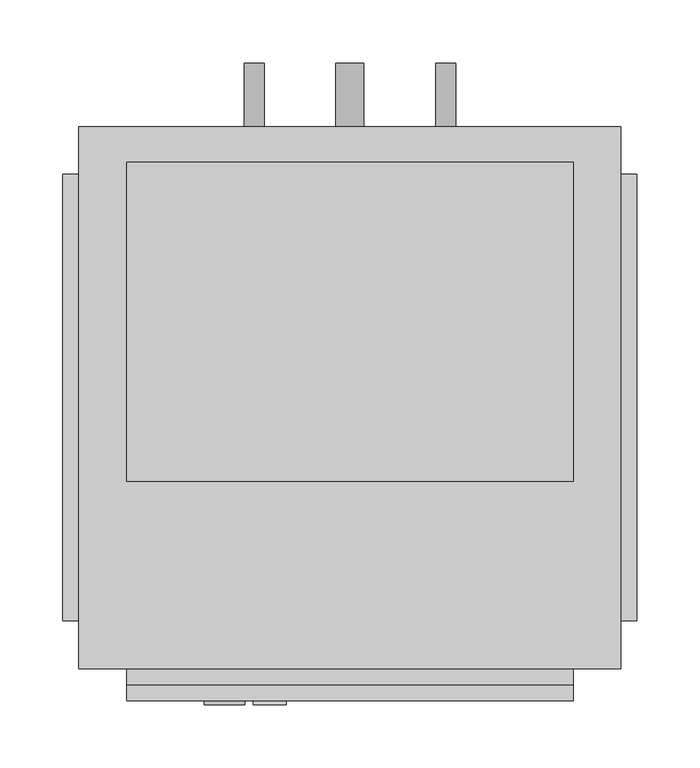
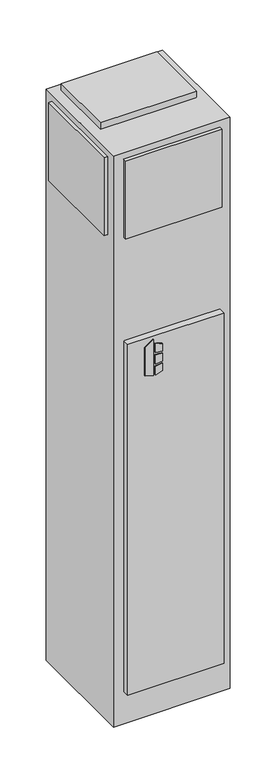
"""IFC4 building model written with IfcOpenShell, lengths in millimetres: proxy geometry, Concealed_Universal_Modular_Fan_Coil_Unit_-_MUY_-_IEC_-_2-Pipe_Cool-EHeat_-_NoRisers_2022 : Size 03 - 277v/60Hz/1Ph - 4 Row 3.0kW."""

from ifc_helpers import new_model, si_unit, point, frame, frame_2d, origin, origin_with_axes, place, context, project, spatial, polyline, circle_curve, trimmed, segment, composite_curve, outline, extrude, source, transform, mapped, element, save


def mechanical_equipment_b2c7ec3c(model_context):
    return source(origin(), model_context, "Body", "SweptSolid", [
        extrude(outline(polyline([(1356.1480703, 252.4868862), (1346.2, 284.6602728), (1488.3709244, 284.6602728), (1465.3489183, 252.4868862), (1356.1480703, 252.4868862)])), frame((0.0, -215.9, 0.0), z_axis=(0.0, 1.0, 0.0), x_axis=(0.0, 0.0, 1.0)), (0.0, 0.0, 1.0), 3.175),
        extrude(outline(polyline([(1435.1473557, 291.4186058), (1431.9449632, 317.5), (1461.1738042, 317.5), (1469.2382193, 291.4186058), (1435.1473557, 291.4186058)])), frame((0.0, -215.9, 0.0), z_axis=(0.0, 1.0, 0.0), x_axis=(0.0, 0.0, 1.0)), (0.0, 0.0, 1.0), 3.175),
        extrude(outline(polyline([(1383.2838288, 317.5), (1379.6183279, 291.4186058), (1346.2, 291.4186058), (1354.8342372, 317.5), (1383.2838288, 317.5)])), frame((0.0, -215.9, 0.0), z_axis=(0.0, 1.0, 0.0), x_axis=(0.0, 0.0, 1.0)), (0.0, 0.0, 1.0), 3.175),
        extrude(outline(polyline([(1422.5989903, 317.5), (1424.8808166, 291.4186058), (1388.9432681, 291.4186058), (1391.6845331, 317.5), (1422.5989903, 317.5)])), frame((0.0, -215.9, 0.0), z_axis=(0.0, 1.0, 0.0), x_axis=(0.0, 0.0, 1.0)), (0.0, 0.0, 1.0), 3.175),
        extrude(outline(composite_curve([segment(trimmed(circle_curve(frame_2d((990.6, 444.5)), 7.9375), [point((990.6, 436.5625))], [point((990.6, 452.4375))], False, "CARTESIAN"), True, "CONTINUOUS"), segment(trimmed(circle_curve(frame_2d((990.6, 444.5)), 7.9375), [point((990.6, 452.4375))], [point((990.6, 436.5625))], False, "CARTESIAN"), True, "CONTINUOUS")], self_intersect=False)), frame((0.0, 244.475, 0.0), z_axis=(0.0, 1.0, 0.0), x_axis=(0.0, 0.0, 1.0)), (0.0, 0.0, 1.0), 50.8),
        extrude(outline(composite_curve([segment(trimmed(circle_curve(frame_2d((990.6, 292.1)), 7.9375), [point((990.6, 284.1625))], [point((990.6, 300.0375))], False, "CARTESIAN"), True, "CONTINUOUS"), segment(trimmed(circle_curve(frame_2d((990.6, 292.1)), 7.9375), [point((990.6, 300.0375))], [point((990.6, 284.1625))], False, "CARTESIAN"), True, "CONTINUOUS")], self_intersect=False)), frame((0.0, 244.475, 0.0), z_axis=(0.0, 1.0, 0.0), x_axis=(0.0, 0.0, 1.0)), (0.0, 0.0, 1.0), 50.8),
        extrude(outline(composite_curve([segment(trimmed(circle_curve(frame_2d((76.2, 368.3)), 11.1125), [point((76.2, 357.1875))], [point((76.2, 379.4125))], False, "CARTESIAN"), True, "CONTINUOUS"), segment(trimmed(circle_curve(frame_2d((76.2, 368.3)), 11.1125), [point((76.2, 379.4125))], [point((76.2, 357.1875))], False, "CARTESIAN"), True, "CONTINUOUS")], self_intersect=False)), frame((0.0, 244.475, 0.0), z_axis=(0.0, 1.0, 0.0), x_axis=(0.0, 0.0, 1.0)), (0.0, 0.0, 1.0), 50.8),
        extrude(outline(polyline([(546.1, 215.9), (546.1, -38.1), (190.5, -38.1), (190.5, 215.9), (546.1, 215.9)])), frame((0.0, 0.0, 2235.2), z_axis=(0.0, 0.0, 1.0), x_axis=(1.0, 0.0, 0.0)), (0.0, 0.0, 1.0), 25.4),
        extrude(outline(polyline([(139.7, -149.225), (139.7, 206.375), (152.4, 206.375), (152.4, -149.225), (139.7, -149.225)])), frame((0.0, 0.0, 1905.0), z_axis=(0.0, 0.0, 1.0), x_axis=(1.0, 0.0, 0.0)), (0.0, 0.0, 1.0), 304.8),
        extrude(outline(polyline([(596.9, 206.375), (596.9, -149.225), (584.2, -149.225), (584.2, 206.375), (596.9, 206.375)])), frame((0.0, 0.0, 1905.0), z_axis=(0.0, 0.0, 1.0), x_axis=(1.0, 0.0, 0.0)), (0.0, 0.0, 1.0), 304.8),
        extrude(outline(polyline([(546.1, -200.025), (190.5, -200.025), (190.5, -187.325), (546.1, -187.325), (546.1, -200.025)])), frame((0.0, 0.0, 1905.0), z_axis=(0.0, 0.0, 1.0), x_axis=(1.0, 0.0, 0.0)), (0.0, 0.0, 1.0), 304.8),
        extrude(outline(polyline([(546.1, -212.725), (190.5, -212.725), (190.5, -187.325), (546.1, -187.325), (546.1, -212.725)])), frame((0.0, 0.0, 127.0), z_axis=(0.0, 0.0, 1.0), x_axis=(1.0, 0.0, 0.0)), (0.0, 0.0, 1.0), 1371.6),
        extrude(outline(polyline([(584.2, 244.475), (584.2, -187.325), (152.4, -187.325), (152.4, 244.475), (584.2, 244.475)])), origin_with_axes(), (0.0, 0.0, 1.0), 2235.2),
    ])


if __name__ == "__main__":
    model = new_model("IFC4")
    model_context = context("Model", 3, world=origin())
    ifc_project = project(units=[si_unit("LENGTHUNIT", "METRE", prefix="MILLI")], contexts=[model_context])
    site = spatial("IfcSite", under=ifc_project)
    building = spatial("IfcBuilding", under=site)
    placement = place(None, origin())
    mechanical_equipment_shape = mechanical_equipment_b2c7ec3c(model_context)
    element("IfcBuildingElementProxy", 1, Name="Concealed_Universal_Modular_Fan_Coil_Unit_-_MUY_-_IEC_-_2-Pipe_Cool-EHeat_-_NoRisers_2022 : Size 03 - 277v/60Hz/1Ph - 4 Row 3.0kW", ObjectType="Concealed_Universal_Modular_Fan_Coil_Unit_-_MUY_-_IEC_-_2-Pipe_Cool-EHeat_-_NoRisers_2022 : Size 03 - 277v/60Hz/1Ph - 4 Row 3.0kW", at=placement, inside=building, context=model_context, shape_type="MappedRepresentation", body=[
        mapped(mechanical_equipment_shape, transform((0.0, 0.0, 0.0), x_axis=(1.0, 0.0, 0.0), y_axis=(0.0, 1.0, 0.0), z_axis=(0.0, 0.0, 1.0))),
    ])
    save(model, "model.ifc")
